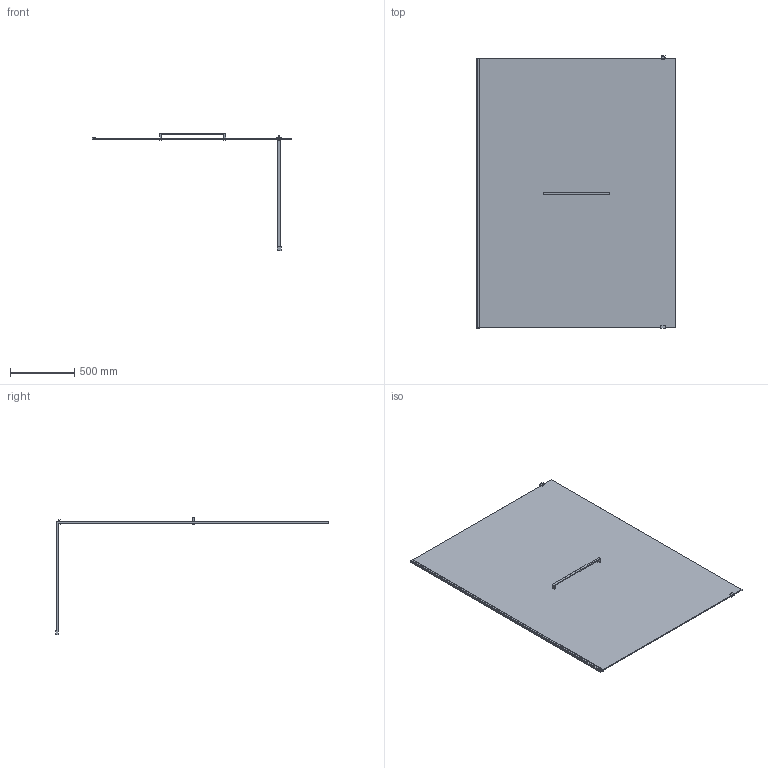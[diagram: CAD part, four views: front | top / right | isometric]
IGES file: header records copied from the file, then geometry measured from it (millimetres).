
Start section: SolidWorks IGES file using analytic representation for surfaces
Global section: file name: D:\Users\M.Szymanski\Desktop\Kabiny\PIII_ALTIIa\03. do przegrania\PIII_ALTIIa_160_z_relingiem_K3D.IGS; native system: SolidWorks 2011; preprocessor: SolidWorks 2011; author: M.Szymanski; date: 181005.105804; units: millimetre
Bounding box: 1558.45 x 2128 x 914.13 mm (x, y, z)
Surface area: 6887830.1 mm2 (no closed solid volume)
Topology: 0 solids, 0 shells, 62 faces, 444 edges, 592 vertices
Faces by surface type: bspline 62
